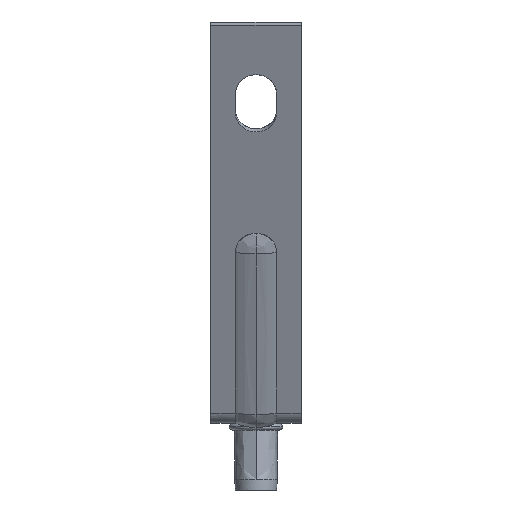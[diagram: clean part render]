
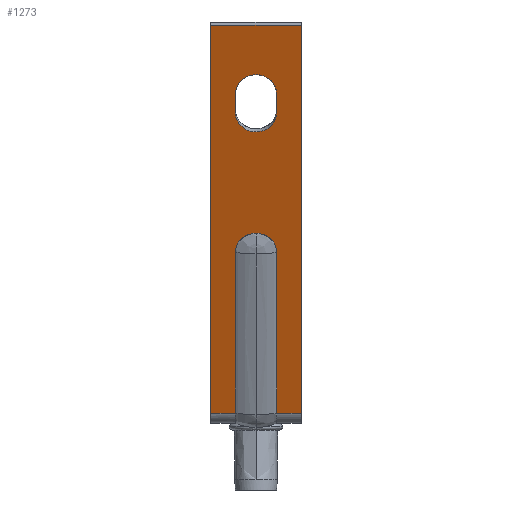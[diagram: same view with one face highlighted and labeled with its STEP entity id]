
A CAD part, left-side view. The second image highlights one B-rep face of the part: STEP entity #1273.
In plain terms, the highlighted planar face has unit normal (-0.927, 0, -0.374).
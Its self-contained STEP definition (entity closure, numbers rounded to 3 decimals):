
#26=FACE_BOUND('',#3846,.T.);
#1273=ADVANCED_FACE('',(#2556,#26),#20014,.T.);
#2556=FACE_OUTER_BOUND('',#3845,.T.);
#3845=EDGE_LOOP('',(#10423,#10424,#10425,#10426,#10427,#10428,#10429,#10430,
#10431));
#3846=EDGE_LOOP('',(#10432,#10433,#10434,#10435));
#10423=ORIENTED_EDGE('',*,*,#13892,.F.);
#10424=ORIENTED_EDGE('',*,*,#13871,.T.);
#10425=ORIENTED_EDGE('',*,*,#13873,.T.);
#10426=ORIENTED_EDGE('',*,*,#13875,.T.);
#10427=ORIENTED_EDGE('',*,*,#13891,.F.);
#10428=ORIENTED_EDGE('',*,*,#13837,.T.);
#10429=ORIENTED_EDGE('',*,*,#13839,.T.);
#10430=ORIENTED_EDGE('',*,*,#13830,.F.);
#10431=ORIENTED_EDGE('',*,*,#13825,.F.);
#10432=ORIENTED_EDGE('',*,*,#13968,.T.);
#10433=ORIENTED_EDGE('',*,*,#13965,.T.);
#10434=ORIENTED_EDGE('',*,*,#13966,.T.);
#10435=ORIENTED_EDGE('',*,*,#13967,.T.);
#13825=EDGE_CURVE('',#19336,#19338,#14510,.T.);
#13830=EDGE_CURVE('',#19338,#19340,#14515,.T.);
#13837=EDGE_CURVE('',#19344,#19345,#14521,.T.);
#13839=EDGE_CURVE('',#19345,#19340,#14523,.T.);
#13871=EDGE_CURVE('',#19369,#19370,#17311,.T.);
#13873=EDGE_CURVE('',#19370,#19371,#17313,.T.);
#13875=EDGE_CURVE('',#19371,#19372,#17315,.T.);
#13891=EDGE_CURVE('',#19344,#19372,#14544,.T.);
#13892=EDGE_CURVE('',#19369,#19336,#14545,.T.);
#13965=EDGE_CURVE('',#19418,#19419,#14604,.T.);
#13966=EDGE_CURVE('',#19419,#19420,#17339,.T.);
#13967=EDGE_CURVE('',#19420,#19421,#14605,.T.);
#13968=EDGE_CURVE('',#19421,#19418,#17340,.T.);
#14510=(
BOUNDED_CURVE()
B_SPLINE_CURVE(2,(#45378,#45379,#45380),.UNSPECIFIED.,.F.,.F.)
B_SPLINE_CURVE_WITH_KNOTS((3,3),(47.487,56.508),
 .UNSPECIFIED.)
CURVE()
GEOMETRIC_REPRESENTATION_ITEM()
RATIONAL_B_SPLINE_CURVE((1.,1.,1.))
REPRESENTATION_ITEM('')
);
#14515=(
BOUNDED_CURVE()
B_SPLINE_CURVE(2,(#45395,#45396,#45397),.UNSPECIFIED.,.F.,.F.)
B_SPLINE_CURVE_WITH_KNOTS((3,3),(56.508,64.362),
 .UNSPECIFIED.)
CURVE()
GEOMETRIC_REPRESENTATION_ITEM()
RATIONAL_B_SPLINE_CURVE((1.,0.707,1.))
REPRESENTATION_ITEM('')
);
#14521=(
BOUNDED_CURVE()
B_SPLINE_CURVE(2,(#45418,#45419,#45420),.UNSPECIFIED.,.F.,.F.)
B_SPLINE_CURVE_WITH_KNOTS((3,3),(47.487,56.508),
 .UNSPECIFIED.)
CURVE()
GEOMETRIC_REPRESENTATION_ITEM()
RATIONAL_B_SPLINE_CURVE((1.,1.,1.))
REPRESENTATION_ITEM('')
);
#14523=(
BOUNDED_CURVE()
B_SPLINE_CURVE(2,(#45425,#45426,#45427),.UNSPECIFIED.,.F.,.F.)
B_SPLINE_CURVE_WITH_KNOTS((3,3),(56.508,64.362),
 .UNSPECIFIED.)
CURVE()
GEOMETRIC_REPRESENTATION_ITEM()
RATIONAL_B_SPLINE_CURVE((1.,0.707,1.))
REPRESENTATION_ITEM('')
);
#14544=(
BOUNDED_CURVE()
B_SPLINE_CURVE(1,(#45542,#45543),.UNSPECIFIED.,.F.,.F.)
B_SPLINE_CURVE_WITH_KNOTS((2,2),(16.,22.),.UNSPECIFIED.)
CURVE()
GEOMETRIC_REPRESENTATION_ITEM()
RATIONAL_B_SPLINE_CURVE((1.,1.))
REPRESENTATION_ITEM('')
);
#14545=(
BOUNDED_CURVE()
B_SPLINE_CURVE(1,(#45544,#45545),.UNSPECIFIED.,.F.,.F.)
B_SPLINE_CURVE_WITH_KNOTS((2,2),(0.,6.),.UNSPECIFIED.)
CURVE()
GEOMETRIC_REPRESENTATION_ITEM()
RATIONAL_B_SPLINE_CURVE((1.,1.))
REPRESENTATION_ITEM('')
);
#14604=(
BOUNDED_CURVE()
B_SPLINE_CURVE(2,(#45777,#45778,#45779,#45780,#45781),.UNSPECIFIED.,.F.,
 .F.)
B_SPLINE_CURVE_WITH_KNOTS((3,2,3),(-85.686,-77.832,
-69.978),.UNSPECIFIED.)
CURVE()
GEOMETRIC_REPRESENTATION_ITEM()
RATIONAL_B_SPLINE_CURVE((1.,0.707,1.,0.707,1.))
REPRESENTATION_ITEM('')
);
#14605=(
BOUNDED_CURVE()
B_SPLINE_CURVE(2,(#45784,#45785,#45786,#45787,#45788),.UNSPECIFIED.,.F.,
 .F.)
B_SPLINE_CURVE_WITH_KNOTS((3,2,3),(-64.978,-57.124,
-49.27),.UNSPECIFIED.)
CURVE()
GEOMETRIC_REPRESENTATION_ITEM()
RATIONAL_B_SPLINE_CURVE((1.,0.707,1.,0.707,1.))
REPRESENTATION_ITEM('')
);
#17311=B_SPLINE_CURVE_WITH_KNOTS('',1,(#45499,#45500),.UNSPECIFIED.,.F.,
 .F.,(2,2),(35.7,137.35),.UNSPECIFIED.);
#17313=B_SPLINE_CURVE_WITH_KNOTS('',1,(#45503,#45504),.UNSPECIFIED.,.F.,
 .F.,(2,2),(0.,22.),.UNSPECIFIED.);
#17315=B_SPLINE_CURVE_WITH_KNOTS('',1,(#45507,#45508),.UNSPECIFIED.,.F.,
 .F.,(2,2),(-137.35,-35.7),.UNSPECIFIED.);
#17339=B_SPLINE_CURVE_WITH_KNOTS('',1,(#45782,#45783),.UNSPECIFIED.,.F.,
 .F.,(2,2),(114.35,119.35),.UNSPECIFIED.);
#17340=B_SPLINE_CURVE_WITH_KNOTS('',1,(#45789,#45790),.UNSPECIFIED.,.F.,
 .F.,(2,2),(-119.35,-114.35),.UNSPECIFIED.);
#19336=VERTEX_POINT('',#45151);
#19338=VERTEX_POINT('',#45153);
#19340=VERTEX_POINT('',#45155);
#19344=VERTEX_POINT('',#45159);
#19345=VERTEX_POINT('',#45160);
#19369=VERTEX_POINT('',#45184);
#19370=VERTEX_POINT('',#45185);
#19371=VERTEX_POINT('',#45186);
#19372=VERTEX_POINT('',#45187);
#19418=VERTEX_POINT('',#45233);
#19419=VERTEX_POINT('',#45234);
#19420=VERTEX_POINT('',#45235);
#19421=VERTEX_POINT('',#45236);
#20014=PLANE('',#21517);
#21517=AXIS2_PLACEMENT_3D('',#44866,#22260,$);
#22260=DIRECTION('',(-0.928,0.,-0.374));
#44866=CARTESIAN_POINT('',(-19.86,-11.,0.505));
#45151=CARTESIAN_POINT('',(-19.86,-5.,0.505));
#45153=CARTESIAN_POINT('',(-35.595,-5.,39.55));
#45155=CARTESIAN_POINT('',(-37.464,0.,44.188));
#45159=CARTESIAN_POINT('',(-19.86,5.,0.505));
#45160=CARTESIAN_POINT('',(-35.595,5.,39.55));
#45184=CARTESIAN_POINT('',(-19.86,-11.,0.505));
#45185=CARTESIAN_POINT('',(-57.855,-11.,94.786));
#45186=CARTESIAN_POINT('',(-57.855,11.,94.786));
#45187=CARTESIAN_POINT('',(-19.86,11.,0.505));
#45233=CARTESIAN_POINT('',(-49.258,-5.,73.454));
#45234=CARTESIAN_POINT('',(-49.258,5.,73.454));
#45235=CARTESIAN_POINT('',(-51.127,5.,78.091));
#45236=CARTESIAN_POINT('',(-51.127,-5.,78.091));
#45378=CARTESIAN_POINT('',(-19.86,-5.,0.505));
#45379=CARTESIAN_POINT('',(-27.727,-5.,20.028));
#45380=CARTESIAN_POINT('',(-35.595,-5.,39.55));
#45395=CARTESIAN_POINT('',(-35.595,-5.,39.55));
#45396=CARTESIAN_POINT('',(-37.464,-5.,44.188));
#45397=CARTESIAN_POINT('',(-37.464,0.,44.188));
#45418=CARTESIAN_POINT('',(-19.86,5.,0.505));
#45419=CARTESIAN_POINT('',(-27.727,5.,20.028));
#45420=CARTESIAN_POINT('',(-35.595,5.,39.55));
#45425=CARTESIAN_POINT('',(-35.595,5.,39.55));
#45426=CARTESIAN_POINT('',(-37.464,5.,44.188));
#45427=CARTESIAN_POINT('',(-37.464,0.,44.188));
#45499=CARTESIAN_POINT('',(-19.86,-11.,0.505));
#45500=CARTESIAN_POINT('',(-57.855,-11.,94.786));
#45503=CARTESIAN_POINT('',(-57.855,-11.,94.786));
#45504=CARTESIAN_POINT('',(-57.855,11.,94.786));
#45507=CARTESIAN_POINT('',(-57.855,11.,94.786));
#45508=CARTESIAN_POINT('',(-19.86,11.,0.505));
#45542=CARTESIAN_POINT('',(-19.86,5.,0.505));
#45543=CARTESIAN_POINT('',(-19.86,11.,0.505));
#45544=CARTESIAN_POINT('',(-19.86,-11.,0.505));
#45545=CARTESIAN_POINT('',(-19.86,-5.,0.505));
#45777=CARTESIAN_POINT('',(-49.258,-5.,73.454));
#45778=CARTESIAN_POINT('',(-47.389,-5.,68.816));
#45779=CARTESIAN_POINT('',(-47.389,0.,68.816));
#45780=CARTESIAN_POINT('',(-47.389,5.,68.816));
#45781=CARTESIAN_POINT('',(-49.258,5.,73.454));
#45782=CARTESIAN_POINT('',(-49.258,5.,73.454));
#45783=CARTESIAN_POINT('',(-51.127,5.,78.091));
#45784=CARTESIAN_POINT('',(-51.127,5.,78.091));
#45785=CARTESIAN_POINT('',(-52.996,5.,82.729));
#45786=CARTESIAN_POINT('',(-52.996,0.,82.729));
#45787=CARTESIAN_POINT('',(-52.996,-5.,82.729));
#45788=CARTESIAN_POINT('',(-51.127,-5.,78.091));
#45789=CARTESIAN_POINT('',(-51.127,-5.,78.091));
#45790=CARTESIAN_POINT('',(-49.258,-5.,73.454));
